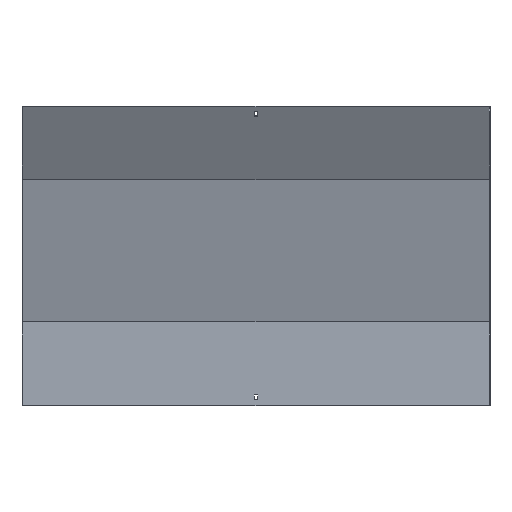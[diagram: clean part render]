
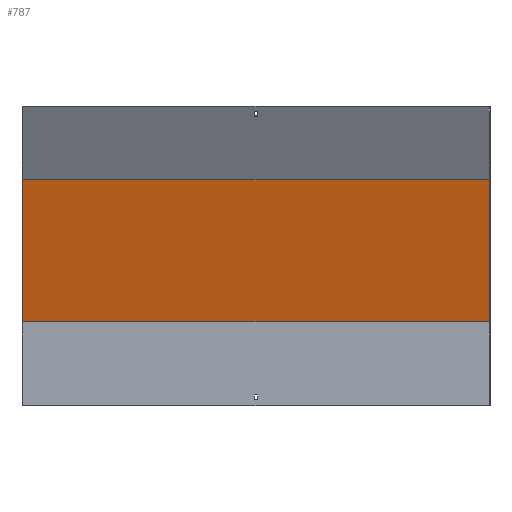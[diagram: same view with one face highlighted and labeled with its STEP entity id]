
A CAD part, front view. The second image highlights one B-rep face of the part: STEP entity #787.
In plain terms, the highlighted planar face has unit normal (0, -0.966, -0.259).
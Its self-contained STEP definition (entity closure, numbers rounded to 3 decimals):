
#25 = LINE ( 'NONE', #819, #234 ) ;
#82 = VERTEX_POINT ( 'NONE', #507 ) ;
#174 = AXIS2_PLACEMENT_3D ( 'NONE', #400, #794, #282 ) ;
#181 = EDGE_LOOP ( 'NONE', ( #518, #424, #606, #333 ) ) ;
#182 = CARTESIAN_POINT ( 'NONE',  ( 450., -54.971, 436.634 ) ) ;
#185 = EDGE_CURVE ( 'NONE', #469, #779, #664, .T. ) ;
#193 = DIRECTION ( 'NONE',  ( 0., -0.259, 0.966 ) ) ;
#234 = VECTOR ( 'NONE', #294, 1000. ) ;
#267 = FACE_OUTER_BOUND ( 'NONE', #181, .T. ) ;
#269 = CARTESIAN_POINT ( 'NONE',  ( 450., 57.87, 15.506 ) ) ;
#274 = CARTESIAN_POINT ( 'NONE',  ( 450., 18.5, 162.436 ) ) ;
#282 = DIRECTION ( 'NONE',  ( 0., 0.259, -0.966 ) ) ;
#294 = DIRECTION ( 'NONE',  ( -1., 0., 0. ) ) ;
#295 = VERTEX_POINT ( 'NONE', #385 ) ;
#333 = ORIENTED_EDGE ( 'NONE', *, *, #546, .T. ) ;
#366 = LINE ( 'NONE', #509, #722 ) ;
#380 = VECTOR ( 'NONE', #193, 1000. ) ;
#385 = CARTESIAN_POINT ( 'NONE',  ( -450., -54.971, 436.634 ) ) ;
#400 = CARTESIAN_POINT ( 'NONE',  ( 451.5, 17.87, 164.788 ) ) ;
#424 = ORIENTED_EDGE ( 'NONE', *, *, #528, .F. ) ;
#463 = PLANE ( 'NONE',  #174 ) ;
#469 = VERTEX_POINT ( 'NONE', #274 ) ;
#507 = CARTESIAN_POINT ( 'NONE',  ( -450., 18.5, 162.436 ) ) ;
#509 = CARTESIAN_POINT ( 'NONE',  ( -450., 57.87, 15.506 ) ) ;
#518 = ORIENTED_EDGE ( 'NONE', *, *, #765, .F. ) ;
#528 = EDGE_CURVE ( 'NONE', #469, #82, #25, .T. ) ;
#546 = EDGE_CURVE ( 'NONE', #779, #295, #685, .T. ) ;
#606 = ORIENTED_EDGE ( 'NONE', *, *, #185, .T. ) ;
#619 = CARTESIAN_POINT ( 'NONE',  ( 451.5, -54.971, 436.634 ) ) ;
#640 = DIRECTION ( 'NONE',  ( 0., -0.259, 0.966 ) ) ;
#664 = LINE ( 'NONE', #269, #380 ) ;
#677 = VECTOR ( 'NONE', #808, 1000. ) ;
#685 = LINE ( 'NONE', #619, #677 ) ;
#722 = VECTOR ( 'NONE', #640, 1000. ) ;
#765 = EDGE_CURVE ( 'NONE', #82, #295, #366, .T. ) ;
#779 = VERTEX_POINT ( 'NONE', #182 ) ;
#787 = ADVANCED_FACE ( 'NONE', ( #267 ), #463, .T. ) ;
#794 = DIRECTION ( 'NONE',  ( 0., -0.966, -0.259 ) ) ;
#808 = DIRECTION ( 'NONE',  ( -1., 0., 0. ) ) ;
#819 = CARTESIAN_POINT ( 'NONE',  ( 451.5, 18.5, 162.436 ) ) ;
